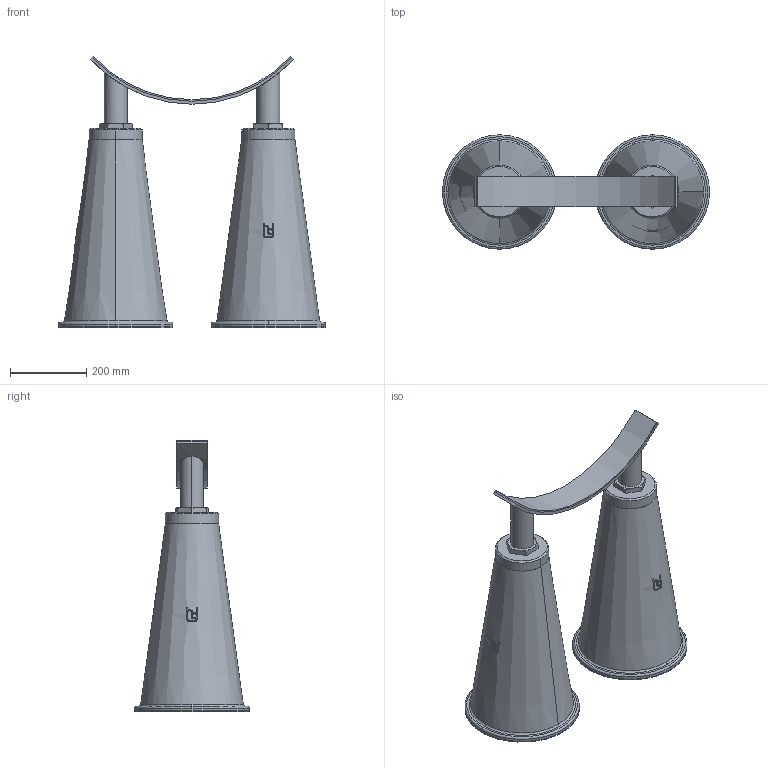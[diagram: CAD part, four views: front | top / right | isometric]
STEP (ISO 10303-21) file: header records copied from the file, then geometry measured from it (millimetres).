
FILE_DESCRIPTION(('STEP AP214'),'1');
FILE_NAME('RSRFC-DUO_DN700.stp','2018-07-02T08:08:25',(' '),(' '),'Spatial InterOp 3D',' ',' ');
FILE_SCHEMA(('automotive_design'));
Length unit declared in the file: millimetre
Products named in the file (10): 1; 2; 3; 4; 5; 6; 7; 8; 9; 10
Bounding box: 700 x 300 x 711.14 mm (x, y, z)
Volume: 37920376.6 mm3; surface area: 1554830.3 mm2
Topology: 10 solids, 10 shells, 190 faces, 476 edges, 316 vertices
Faces by surface type: plane 82, cylinder 66, cone 34, torus 8
Entity records: 8813 total; most frequent: CARTESIAN_POINT 2566, ORIENTED_EDGE 952, DIRECTION 942, EDGE_CURVE 476, AXIS2_PLACEMENT_3D 366, VERTEX_POINT 316, LINE 210, VECTOR 210
